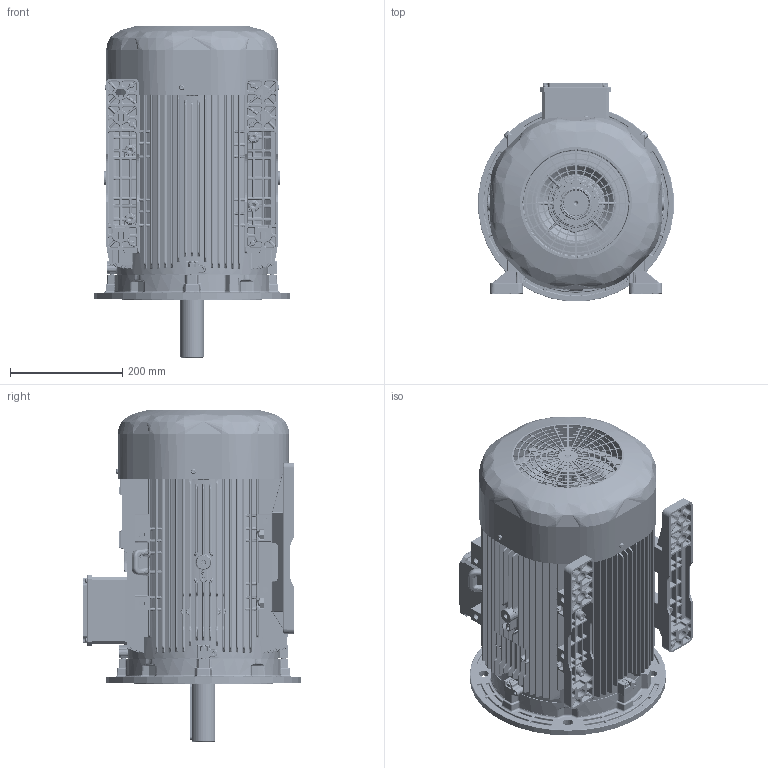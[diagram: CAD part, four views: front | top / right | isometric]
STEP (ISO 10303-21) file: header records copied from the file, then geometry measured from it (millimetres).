
FILE_DESCRIPTION(/* description */ (''),/* implementation_level */ '2;1');
FILE_NAME(/* name */ 'OUTLOOK VIEW QH160 PA B35 FF300 SPL.stp',/* time_stamp */ '2021-09-21T15:37:50+03:00',/* author */ (''),/* organization */ (''),/* preprocessor_version */ 'ST-DEVELOPER v16',/* originating_system */ 'SIEMENS PLM Software NX 11.0',/* authorisation */ '');
FILE_SCHEMA (('AUTOMOTIVE_DESIGN { 1 0 10303 214 3 1 1 1 }'));
Products named in the file (1): 260652D491E0rxoa
Bounding box: 348.17 x 389.08 x 591 mm (x, y, z)
Volume: 7355599.6 mm3; surface area: 2718942.8 mm2
Topology: 232 solids, 232 shells, 17399 faces, 40299 edges, 22669 vertices
Faces by surface type: cylinder 5636, bspline 5028, plane 3929, sphere 1151, torus 976, cone 667, extrusion 12
Full cylindrical faces by diameter (mm): 2.5 x9, 3.5 x2, 4 x4, 4.2 x4, 4.3 x4, 5.5 x8, 5.6 x1, 8 x20, 8.028 x3, 8.376 x4, 8.4 x4, 8.5 x7, 10 x5, 10.2 x1, 10.5 x4, 13 x9, 15 x1, 16 x8, 17 x4, 20 x4, 25 x1, 30.38 x2, 33.6 x1, 34.2 x1, 41.4 x1, 42 x1, 42.5 x1, 44.4 x2, 45 x7, 45.5 x1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
Entity records: 570826 total; most frequent: CARTESIAN_POINT 204259, ORIENTED_EDGE 77044, DIRECTION 74874, EDGE_CURVE 38522, AXIS2_PLACEMENT_3D 30437, VERTEX_POINT 22397, EDGE_LOOP 18765, ADVANCED_FACE 17393
